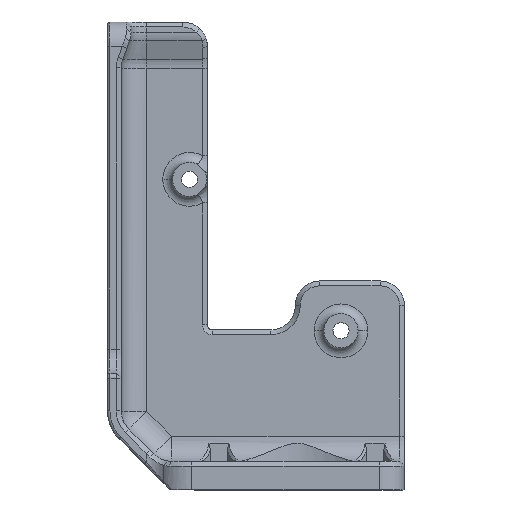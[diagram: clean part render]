
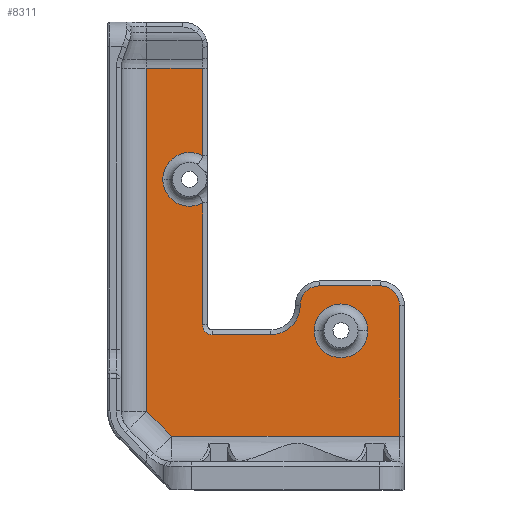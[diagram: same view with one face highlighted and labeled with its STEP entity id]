
A CAD part, top view. The second image highlights one B-rep face of the part: STEP entity #8311.
In plain terms, the highlighted planar face has unit normal (0, 0, 1).
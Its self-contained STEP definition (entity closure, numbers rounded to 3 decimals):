
#5480=AXIS2_PLACEMENT_3D('Circle Axis2P3D',#5478,#5479,$) ;
#5528=AXIS2_PLACEMENT_3D('Circle Axis2P3D',#5526,#5527,$) ;
#5552=AXIS2_PLACEMENT_3D('Circle Axis2P3D',#5550,#5551,$) ;
#7962=AXIS2_PLACEMENT_3D('Circle Axis2P3D',#7960,#7961,$) ;
#7986=AXIS2_PLACEMENT_3D('Circle Axis2P3D',#7984,#7985,$) ;
#8040=AXIS2_PLACEMENT_3D('Circle Axis2P3D',#8038,#8039,$) ;
#8052=AXIS2_PLACEMENT_3D('Circle Axis2P3D',#8050,#8051,$) ;
#8273=AXIS2_PLACEMENT_3D('Plane Axis2P3D',#8270,#8271,#8272) ;
#3641=CARTESIAN_POINT('Vertex',(59.8,5.,2.8)) ;
#3644=CARTESIAN_POINT('Line Origine',(34.4,5.,2.8)) ;
#3648=CARTESIAN_POINT('Vertex',(13.114,5.,2.8)) ;
#5420=CARTESIAN_POINT('Vertex',(19.45,80.388,2.8)) ;
#5423=CARTESIAN_POINT('Line Origine',(19.45,43.061,2.8)) ;
#5427=CARTESIAN_POINT('Vertex',(19.45,62.419,2.8)) ;
#5451=CARTESIAN_POINT('Vertex',(19.45,52.781,2.8)) ;
#5454=CARTESIAN_POINT('Line Origine',(19.45,43.061,2.8)) ;
#5458=CARTESIAN_POINT('Vertex',(19.45,27.8,2.8)) ;
#5478=CARTESIAN_POINT('Axis2P3D Location',(21.45,27.8,2.8)) ;
#5482=CARTESIAN_POINT('Vertex',(21.45,25.8,2.8)) ;
#5502=CARTESIAN_POINT('Line Origine',(34.4,25.8,2.8)) ;
#5506=CARTESIAN_POINT('Vertex',(33.45,25.8,2.8)) ;
#5526=CARTESIAN_POINT('Axis2P3D Location',(33.45,31.8,2.8)) ;
#5530=CARTESIAN_POINT('Vertex',(39.45,31.8,2.8)) ;
#5550=CARTESIAN_POINT('Axis2P3D Location',(43.45,31.8,2.8)) ;
#5554=CARTESIAN_POINT('Vertex',(43.45,35.8,2.8)) ;
#5579=CARTESIAN_POINT('Line Origine',(13.638,4.475,2.8)) ;
#5583=CARTESIAN_POINT('Vertex',(8.,10.114,2.8)) ;
#7578=CARTESIAN_POINT('Vertex',(8.,80.388,2.8)) ;
#7957=CARTESIAN_POINT('Vertex',(42.3,26.6,2.8)) ;
#7960=CARTESIAN_POINT('Axis2P3D Location',(47.8,26.6,2.8)) ;
#7964=CARTESIAN_POINT('Vertex',(53.3,26.6,2.8)) ;
#7984=CARTESIAN_POINT('Axis2P3D Location',(47.8,26.6,2.8)) ;
#8001=CARTESIAN_POINT('Line Origine',(34.4,80.388,2.8)) ;
#8018=CARTESIAN_POINT('Line Origine',(8.,49.957,2.8)) ;
#8035=CARTESIAN_POINT('Vertex',(11.3,57.6,2.8)) ;
#8038=CARTESIAN_POINT('Axis2P3D Location',(16.8,57.6,2.8)) ;
#8050=CARTESIAN_POINT('Axis2P3D Location',(16.8,57.6,2.8)) ;
#8067=CARTESIAN_POINT('Line Origine',(34.4,35.8,2.8)) ;
#8071=CARTESIAN_POINT('Vertex',(55.8,35.8,2.8)) ;
#8270=CARTESIAN_POINT('Axis2P3D Location',(0.,0.,2.8)) ;
#8275=CARTESIAN_POINT('Line Origine',(59.8,43.3,2.8)) ;
#8279=CARTESIAN_POINT('Vertex',(59.8,31.8,2.8)) ;
#8283=CARTESIAN_POINT('Control Point',(55.8,35.8,2.8)) ;
#8284=CARTESIAN_POINT('Control Point',(57.057,35.8,2.8)) ;
#8285=CARTESIAN_POINT('Control Point',(58.314,35.308,2.8)) ;
#8286=CARTESIAN_POINT('Control Point',(59.308,34.314,2.8)) ;
#8287=CARTESIAN_POINT('Control Point',(59.8,33.057,2.8)) ;
#8288=CARTESIAN_POINT('Control Point',(59.8,31.8,2.8)) ;
#3645=DIRECTION('Vector Direction',(-1.,0.,0.)) ;
#5424=DIRECTION('Vector Direction',(0.,1.,0.)) ;
#5455=DIRECTION('Vector Direction',(0.,1.,0.)) ;
#5479=DIRECTION('Axis2P3D Direction',(0.,-0.,-1.)) ;
#5503=DIRECTION('Vector Direction',(-1.,0.,0.)) ;
#5527=DIRECTION('Axis2P3D Direction',(0.,0.,-1.)) ;
#5551=DIRECTION('Axis2P3D Direction',(0.,0.,-1.)) ;
#5580=DIRECTION('Vector Direction',(-0.707,0.707,0.)) ;
#7961=DIRECTION('Axis2P3D Direction',(0.,0.,-1.)) ;
#7985=DIRECTION('Axis2P3D Direction',(-0.,0.,-1.)) ;
#8002=DIRECTION('Vector Direction',(-1.,0.,0.)) ;
#8019=DIRECTION('Vector Direction',(0.,-1.,0.)) ;
#8039=DIRECTION('Axis2P3D Direction',(0.,0.,-1.)) ;
#8051=DIRECTION('Axis2P3D Direction',(-0.,0.,-1.)) ;
#8068=DIRECTION('Vector Direction',(1.,0.,0.)) ;
#8271=DIRECTION('Axis2P3D Direction',(0.,0.,-1.)) ;
#8272=DIRECTION('Axis2P3D XDirection',(1.,0.,0.)) ;
#8276=DIRECTION('Vector Direction',(0.,-1.,0.)) ;
#3646=VECTOR('Line Direction',#3645,1.) ;
#5425=VECTOR('Line Direction',#5424,1.) ;
#5456=VECTOR('Line Direction',#5455,1.) ;
#5504=VECTOR('Line Direction',#5503,1.) ;
#5581=VECTOR('Line Direction',#5580,1.) ;
#8003=VECTOR('Line Direction',#8002,1.) ;
#8020=VECTOR('Line Direction',#8019,1.) ;
#8069=VECTOR('Line Direction',#8068,1.) ;
#8277=VECTOR('Line Direction',#8276,1.) ;
#8291=ORIENTED_EDGE('',*,*,#8005,.T.) ;
#8292=ORIENTED_EDGE('',*,*,#8022,.T.) ;
#8293=ORIENTED_EDGE('',*,*,#5585,.F.) ;
#8294=ORIENTED_EDGE('',*,*,#3650,.T.) ;
#8295=ORIENTED_EDGE('',*,*,#8281,.F.) ;
#8296=ORIENTED_EDGE('',*,*,#8289,.F.) ;
#8297=ORIENTED_EDGE('',*,*,#8073,.F.) ;
#8298=ORIENTED_EDGE('',*,*,#5556,.F.) ;
#8299=ORIENTED_EDGE('',*,*,#5532,.F.) ;
#8300=ORIENTED_EDGE('',*,*,#5508,.F.) ;
#8301=ORIENTED_EDGE('',*,*,#5484,.F.) ;
#8302=ORIENTED_EDGE('',*,*,#5460,.F.) ;
#8303=ORIENTED_EDGE('',*,*,#8042,.T.) ;
#8304=ORIENTED_EDGE('',*,*,#8054,.T.) ;
#8305=ORIENTED_EDGE('',*,*,#5429,.F.) ;
#8308=ORIENTED_EDGE('',*,*,#7966,.T.) ;
#8309=ORIENTED_EDGE('',*,*,#7988,.T.) ;
#8310=FACE_BOUND('',#8307,.T.) ;
#8311=ADVANCED_FACE('HEMERA_Doppia_5015_Ventola_Dadi',(#8306,#8310),#8274,.F.) ;
#8282=B_SPLINE_CURVE_WITH_KNOTS('',5,(#8283,#8284,#8285,#8286,#8287,#8288),.UNSPECIFIED.,.F.,.U.,(6,6),(18.85,25.133),.UNSPECIFIED.) ;
#5481=CIRCLE('generated circle',#5480,2.) ;
#5529=CIRCLE('generated circle',#5528,6.) ;
#5553=CIRCLE('generated circle',#5552,4.) ;
#7963=CIRCLE('generated circle',#7962,5.5) ;
#7987=CIRCLE('generated circle',#7986,5.5) ;
#8041=CIRCLE('generated circle',#8040,5.5) ;
#8053=CIRCLE('generated circle',#8052,5.5) ;
#3650=EDGE_CURVE('',#3649,#3642,#3647,.F.) ;
#5429=EDGE_CURVE('',#5421,#5428,#5426,.F.) ;
#5460=EDGE_CURVE('',#5452,#5459,#5457,.F.) ;
#5484=EDGE_CURVE('',#5459,#5483,#5481,.F.) ;
#5508=EDGE_CURVE('',#5483,#5507,#5505,.F.) ;
#5532=EDGE_CURVE('',#5507,#5531,#5529,.F.) ;
#5556=EDGE_CURVE('',#5531,#5555,#5553,.T.) ;
#5585=EDGE_CURVE('',#3649,#5584,#5582,.T.) ;
#7966=EDGE_CURVE('',#7965,#7958,#7963,.T.) ;
#7988=EDGE_CURVE('',#7958,#7965,#7987,.T.) ;
#8005=EDGE_CURVE('',#5421,#7579,#8004,.T.) ;
#8022=EDGE_CURVE('',#7579,#5584,#8021,.T.) ;
#8042=EDGE_CURVE('',#5452,#8036,#8041,.T.) ;
#8054=EDGE_CURVE('',#8036,#5428,#8053,.T.) ;
#8073=EDGE_CURVE('',#5555,#8072,#8070,.T.) ;
#8281=EDGE_CURVE('',#8280,#3642,#8278,.T.) ;
#8289=EDGE_CURVE('',#8072,#8280,#8282,.T.) ;
#8290=EDGE_LOOP('',(#8291,#8292,#8293,#8294,#8295,#8296,#8297,#8298,#8299,#8300,#8301,#8302,#8303,#8304,#8305)) ;
#8307=EDGE_LOOP('',(#8308,#8309)) ;
#8306=FACE_OUTER_BOUND('',#8290,.T.) ;
#3647=LINE('Line',#3644,#3646) ;
#5426=LINE('Line',#5423,#5425) ;
#5457=LINE('Line',#5454,#5456) ;
#5505=LINE('Line',#5502,#5504) ;
#5582=LINE('Line',#5579,#5581) ;
#8004=LINE('Line',#8001,#8003) ;
#8021=LINE('Line',#8018,#8020) ;
#8070=LINE('Line',#8067,#8069) ;
#8278=LINE('Line',#8275,#8277) ;
#8274=PLANE('',#8273) ;
#3642=VERTEX_POINT('',#3641) ;
#3649=VERTEX_POINT('',#3648) ;
#5421=VERTEX_POINT('',#5420) ;
#5428=VERTEX_POINT('',#5427) ;
#5452=VERTEX_POINT('',#5451) ;
#5459=VERTEX_POINT('',#5458) ;
#5483=VERTEX_POINT('',#5482) ;
#5507=VERTEX_POINT('',#5506) ;
#5531=VERTEX_POINT('',#5530) ;
#5555=VERTEX_POINT('',#5554) ;
#5584=VERTEX_POINT('',#5583) ;
#7579=VERTEX_POINT('',#7578) ;
#7958=VERTEX_POINT('',#7957) ;
#7965=VERTEX_POINT('',#7964) ;
#8036=VERTEX_POINT('',#8035) ;
#8072=VERTEX_POINT('',#8071) ;
#8280=VERTEX_POINT('',#8279) ;
